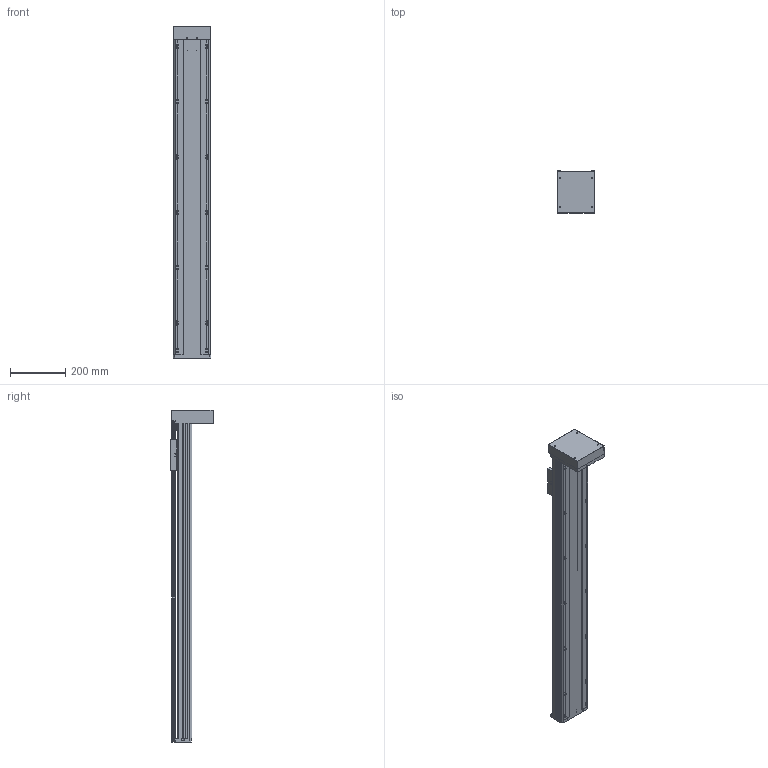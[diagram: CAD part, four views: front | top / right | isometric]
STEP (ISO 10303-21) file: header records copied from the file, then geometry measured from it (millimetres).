
FILE_DESCRIPTION(/* description */ (''),/* implementation_level */ '2;1');
FILE_NAME(/* name */ 'TKA136-FD-950_asm1.stp',/* time_stamp */ '2016-05-07T09:51:00+08:00',/* author */ (''),/* organization */ (''),/* preprocessor_version */ 'ST-DEVELOPER v15',/* originating_system */ 'SIEMENS PLM Software NX 8.5',/* authorisation */ '');
FILE_SCHEMA (('AUTOMOTIVE_DESIGN { 1 0 10303 214 3 1 1 1 }'));
Length unit declared in the file: millimetre
Products named in the file (3): 100-02; 100-01; TKA136-FD-950_asm1
Assembly tree (2 placements, depth 2):
  TKA136-FD-950_asm1
    100-01
    100-02
Bounding box: 136 x 152 x 1200 mm (x, y, z)
Volume: 3712306.8 mm3; surface area: 1442333.1 mm2
Topology: 2 solids, 13 shells, 960 faces, 2725 edges, 1757 vertices
Faces by surface type: cylinder 469, plane 426, cone 65
Full cylindrical faces by diameter (mm): 3 x2, 3.3 x13, 4 x4, 4.2 x8, 4.5 x14, 5 x14, 5.5 x26, 6.6 x18, 8 x12, 10 x9, 10.5 x14, 11 x4, 11.6 x1, 12 x9, 15 x3, 16 x5, 17 x1, 24 x5, 26 x1, 28 x1, 46 x1, 50 x2
Entity records: 32730 total; most frequent: CARTESIAN_POINT 8678, DIRECTION 5020, ORIENTED_EDGE 4774, EDGE_CURVE 2387, AXIS2_PLACEMENT_3D 1903, VERTEX_POINT 1656, EDGE_LOOP 1360, LINE 1214
